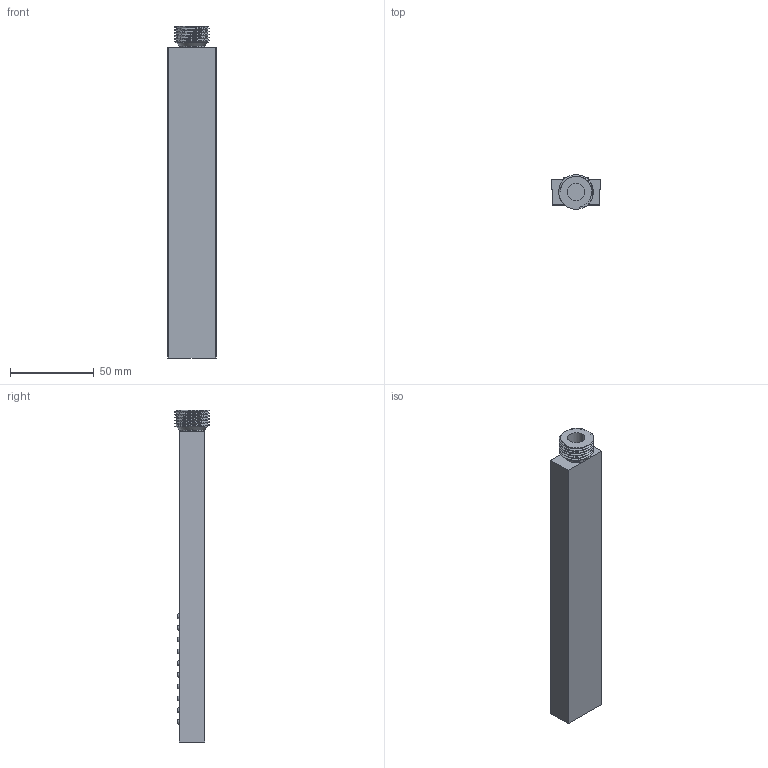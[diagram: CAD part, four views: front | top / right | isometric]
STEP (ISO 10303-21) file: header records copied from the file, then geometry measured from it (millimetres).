
FILE_DESCRIPTION (( 'STEP AP203' ), '1' );
FILE_NAME ('DOC7.STEP', '2025-02-28T07:34:32', ( '' ), ( '' ), 'SwSTEP 2.0', 'SolidWorks 2024', '' );
FILE_SCHEMA (( 'CONFIG_CONTROL_DESIGN' ));
Length unit declared in the file: millimetre
Products named in the file (1): DOC7
Bounding box: 29 x 20.6 x 198 mm (x, y, z)
Volume: 81880.5 mm3; surface area: 20214.9 mm2
Topology: 31 solids, 31 shells, 311 faces, 640 edges, 425 vertices
Faces by surface type: cylinder 136, plane 110, cone 62, bspline 3
Entity records: 9841 total; most frequent: CARTESIAN_POINT 2793, DIRECTION 1600, ORIENTED_EDGE 1280, AXIS2_PLACEMENT_3D 682, EDGE_CURVE 640, VERTEX_POINT 425, EDGE_LOOP 405, CIRCLE 373
